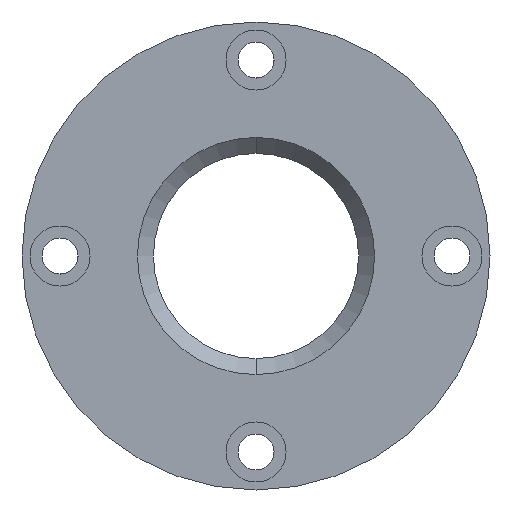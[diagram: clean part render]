
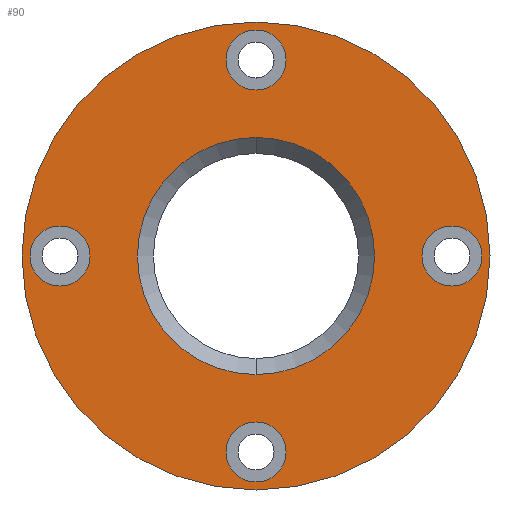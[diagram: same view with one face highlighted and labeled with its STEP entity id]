
A CAD part, front view. The second image highlights one B-rep face of the part: STEP entity #90.
In plain terms, the highlighted planar face has unit normal (0, -1, 0).
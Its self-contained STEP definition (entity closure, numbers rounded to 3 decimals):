
#8 = EDGE_CURVE ( 'NONE', #489, #53, #832, .T. ) ;
#10 = CIRCLE ( 'NONE', #253, 7.5 ) ;
#16 = CARTESIAN_POINT ( 'NONE',  ( 0., 0., 41.5 ) ) ;
#29 = AXIS2_PLACEMENT_3D ( 'NONE', #618, #605, #1004 ) ;
#34 = DIRECTION ( 'NONE',  ( 0., -1., 0. ) ) ;
#35 = VERTEX_POINT ( 'NONE', #575 ) ;
#41 = VERTEX_POINT ( 'NONE', #495 ) ;
#44 = VERTEX_POINT ( 'NONE', #94 ) ;
#53 = VERTEX_POINT ( 'NONE', #105 ) ;
#54 = DIRECTION ( 'NONE',  ( 0., 0., -1. ) ) ;
#85 = CARTESIAN_POINT ( 'NONE',  ( 0., 0., 49. ) ) ;
#90 = ADVANCED_FACE ( 'NONE', ( #807, #660, #956, #244, #258, #821 ), #894, .F. ) ;
#91 = CIRCLE ( 'NONE', #726, 29.65 ) ;
#93 = DIRECTION ( 'NONE',  ( -1., 0., 0. ) ) ;
#94 = CARTESIAN_POINT ( 'NONE',  ( 0., 0., 56.5 ) ) ;
#96 = AXIS2_PLACEMENT_3D ( 'NONE', #85, #822, #396 ) ;
#104 = DIRECTION ( 'NONE',  ( 0., -1., 0. ) ) ;
#105 = CARTESIAN_POINT ( 'NONE',  ( -49., 0., 7.5 ) ) ;
#142 = CARTESIAN_POINT ( 'NONE',  ( 58.5, 0., 0. ) ) ;
#147 = DIRECTION ( 'NONE',  ( 0., 0., -1. ) ) ;
#165 = EDGE_CURVE ( 'NONE', #503, #431, #948, .T. ) ;
#176 = CIRCLE ( 'NONE', #288, 58.5 ) ;
#179 = DIRECTION ( 'NONE',  ( 0., 0., -1. ) ) ;
#184 = CARTESIAN_POINT ( 'NONE',  ( 49., 0., 0. ) ) ;
#188 = CARTESIAN_POINT ( 'NONE',  ( 49., 0., -7.5 ) ) ;
#212 = CARTESIAN_POINT ( 'NONE',  ( 0., 0., 0. ) ) ;
#224 = DIRECTION ( 'NONE',  ( 0., 1., 0. ) ) ;
#225 = DIRECTION ( 'NONE',  ( 0., 0., -1. ) ) ;
#241 = CARTESIAN_POINT ( 'NONE',  ( -58.5, 0., 0. ) ) ;
#243 = CARTESIAN_POINT ( 'NONE',  ( 0., 0., -56.5 ) ) ;
#244 = FACE_BOUND ( 'NONE', #680, .T. ) ;
#250 = CARTESIAN_POINT ( 'NONE',  ( 0., 0., 0. ) ) ;
#253 = AXIS2_PLACEMENT_3D ( 'NONE', #184, #104, #744 ) ;
#254 = ORIENTED_EDGE ( 'NONE', *, *, #796, .F. ) ;
#258 = FACE_BOUND ( 'NONE', #909, .T. ) ;
#271 = EDGE_LOOP ( 'NONE', ( #346, #794 ) ) ;
#281 = DIRECTION ( 'NONE',  ( 0., 0., -1. ) ) ;
#287 = CIRCLE ( 'NONE', #908, 29.65 ) ;
#288 = AXIS2_PLACEMENT_3D ( 'NONE', #314, #224, #636 ) ;
#293 = CARTESIAN_POINT ( 'NONE',  ( -49., 0., -7.5 ) ) ;
#305 = DIRECTION ( 'NONE',  ( 0., 0., -1. ) ) ;
#311 = CARTESIAN_POINT ( 'NONE',  ( 0., 0., -49. ) ) ;
#312 = VERTEX_POINT ( 'NONE', #16 ) ;
#314 = CARTESIAN_POINT ( 'NONE',  ( 0., 0., 0. ) ) ;
#317 = EDGE_LOOP ( 'NONE', ( #857, #801 ) ) ;
#339 = ORIENTED_EDGE ( 'NONE', *, *, #521, .F. ) ;
#346 = ORIENTED_EDGE ( 'NONE', *, *, #507, .F. ) ;
#357 = CIRCLE ( 'NONE', #932, 7.5 ) ;
#373 = CARTESIAN_POINT ( 'NONE',  ( 49., 0., 0. ) ) ;
#382 = ORIENTED_EDGE ( 'NONE', *, *, #919, .F. ) ;
#393 = DIRECTION ( 'NONE',  ( 0., -1., 0. ) ) ;
#396 = DIRECTION ( 'NONE',  ( 0., 0., -1. ) ) ;
#421 = EDGE_CURVE ( 'NONE', #431, #503, #10, .T. ) ;
#430 = ORIENTED_EDGE ( 'NONE', *, *, #165, .F. ) ;
#431 = VERTEX_POINT ( 'NONE', #188 ) ;
#438 = VERTEX_POINT ( 'NONE', #928 ) ;
#450 = DIRECTION ( 'NONE',  ( 0., -1., 0. ) ) ;
#451 = AXIS2_PLACEMENT_3D ( 'NONE', #578, #895, #179 ) ;
#455 = AXIS2_PLACEMENT_3D ( 'NONE', #808, #34, #571 ) ;
#457 = CIRCLE ( 'NONE', #96, 7.5 ) ;
#480 = ORIENTED_EDGE ( 'NONE', *, *, #8, .F. ) ;
#481 = DIRECTION ( 'NONE',  ( -1., 0., 0. ) ) ;
#485 = CARTESIAN_POINT ( 'NONE',  ( 0., 0., 0. ) ) ;
#489 = VERTEX_POINT ( 'NONE', #293 ) ;
#495 = CARTESIAN_POINT ( 'NONE',  ( 0., 0., -29.65 ) ) ;
#500 = EDGE_CURVE ( 'NONE', #41, #35, #287, .T. ) ;
#503 = VERTEX_POINT ( 'NONE', #855 ) ;
#507 = EDGE_CURVE ( 'NONE', #603, #438, #662, .T. ) ;
#510 = CIRCLE ( 'NONE', #642, 7.5 ) ;
#511 = EDGE_LOOP ( 'NONE', ( #522, #430 ) ) ;
#521 = EDGE_CURVE ( 'NONE', #35, #41, #91, .T. ) ;
#522 = ORIENTED_EDGE ( 'NONE', *, *, #421, .F. ) ;
#529 = CIRCLE ( 'NONE', #455, 7.5 ) ;
#543 = CIRCLE ( 'NONE', #990, 58.5 ) ;
#565 = DIRECTION ( 'NONE',  ( 0., -1., 0. ) ) ;
#570 = EDGE_CURVE ( 'NONE', #438, #603, #510, .T. ) ;
#571 = DIRECTION ( 'NONE',  ( 0., 0., -1. ) ) ;
#575 = CARTESIAN_POINT ( 'NONE',  ( 0., 0., 29.65 ) ) ;
#576 = AXIS2_PLACEMENT_3D ( 'NONE', #250, #888, #481 ) ;
#578 = CARTESIAN_POINT ( 'NONE',  ( -49., 0., 0. ) ) ;
#594 = AXIS2_PLACEMENT_3D ( 'NONE', #373, #565, #147 ) ;
#603 = VERTEX_POINT ( 'NONE', #243 ) ;
#605 = DIRECTION ( 'NONE',  ( 0., -1., 0. ) ) ;
#611 = EDGE_CURVE ( 'NONE', #44, #312, #357, .T. ) ;
#618 = CARTESIAN_POINT ( 'NONE',  ( 0., 0., -49. ) ) ;
#636 = DIRECTION ( 'NONE',  ( -1., 0., 0. ) ) ;
#639 = ORIENTED_EDGE ( 'NONE', *, *, #500, .F. ) ;
#642 = AXIS2_PLACEMENT_3D ( 'NONE', #311, #944, #225 ) ;
#660 = FACE_BOUND ( 'NONE', #511, .T. ) ;
#662 = CIRCLE ( 'NONE', #29, 7.5 ) ;
#680 = EDGE_LOOP ( 'NONE', ( #480, #382 ) ) ;
#726 = AXIS2_PLACEMENT_3D ( 'NONE', #920, #768, #54 ) ;
#744 = DIRECTION ( 'NONE',  ( 0., 0., -1. ) ) ;
#755 = ORIENTED_EDGE ( 'NONE', *, *, #769, .F. ) ;
#768 = DIRECTION ( 'NONE',  ( 0., -1., 0. ) ) ;
#769 = EDGE_CURVE ( 'NONE', #961, #903, #543, .T. ) ;
#794 = ORIENTED_EDGE ( 'NONE', *, *, #570, .F. ) ;
#796 = EDGE_CURVE ( 'NONE', #903, #961, #176, .T. ) ;
#801 = ORIENTED_EDGE ( 'NONE', *, *, #611, .F. ) ;
#807 = FACE_BOUND ( 'NONE', #271, .T. ) ;
#808 = CARTESIAN_POINT ( 'NONE',  ( -49., 0., 0. ) ) ;
#810 = DIRECTION ( 'NONE',  ( 0., 1., 0. ) ) ;
#821 = FACE_OUTER_BOUND ( 'NONE', #922, .T. ) ;
#822 = DIRECTION ( 'NONE',  ( 0., -1., 0. ) ) ;
#832 = CIRCLE ( 'NONE', #451, 7.5 ) ;
#855 = CARTESIAN_POINT ( 'NONE',  ( 49., 0., 7.5 ) ) ;
#857 = ORIENTED_EDGE ( 'NONE', *, *, #1002, .F. ) ;
#888 = DIRECTION ( 'NONE',  ( 0., 1., 0. ) ) ;
#894 = PLANE ( 'NONE',  #576 ) ;
#895 = DIRECTION ( 'NONE',  ( 0., -1., 0. ) ) ;
#903 = VERTEX_POINT ( 'NONE', #142 ) ;
#908 = AXIS2_PLACEMENT_3D ( 'NONE', #212, #450, #281 ) ;
#909 = EDGE_LOOP ( 'NONE', ( #639, #339 ) ) ;
#919 = EDGE_CURVE ( 'NONE', #53, #489, #529, .T. ) ;
#920 = CARTESIAN_POINT ( 'NONE',  ( 0., 0., 0. ) ) ;
#922 = EDGE_LOOP ( 'NONE', ( #755, #254 ) ) ;
#928 = CARTESIAN_POINT ( 'NONE',  ( 0., 0., -41.5 ) ) ;
#932 = AXIS2_PLACEMENT_3D ( 'NONE', #955, #393, #305 ) ;
#944 = DIRECTION ( 'NONE',  ( 0., -1., 0. ) ) ;
#948 = CIRCLE ( 'NONE', #594, 7.5 ) ;
#955 = CARTESIAN_POINT ( 'NONE',  ( 0., 0., 49. ) ) ;
#956 = FACE_BOUND ( 'NONE', #317, .T. ) ;
#961 = VERTEX_POINT ( 'NONE', #241 ) ;
#990 = AXIS2_PLACEMENT_3D ( 'NONE', #485, #810, #93 ) ;
#1002 = EDGE_CURVE ( 'NONE', #312, #44, #457, .T. ) ;
#1004 = DIRECTION ( 'NONE',  ( 0., 0., -1. ) ) ;
